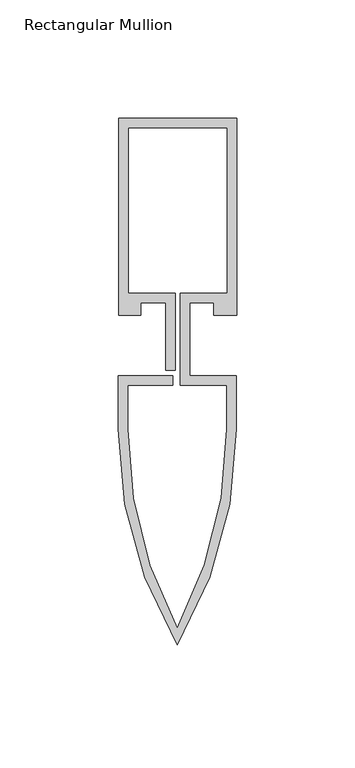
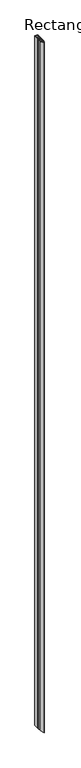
"""IFC4 building model written with IfcOpenShell, lengths in millimetres: member geometry, Rectangular Mullion : Reynaers_CW-50_Transom-Transom_83.5mm_Facecap-05."""

from ifc_helpers import new_model, si_unit, point, frame, frame_2d, origin, place, context, project, spatial, polyline, circle_curve, trimmed, segment, composite_curve, outline, extrude, source, transform, mapped, element, save


def rectangular_mullion_9ff2e521(model_context):
    return source(origin(), model_context, "Body", "SweptSolid", [
        extrude(outline(composite_curve([segment(polyline([(25.1995941, 12.7331291), (15.499, 12.7331291), (15.499, 18.1331291), (5.2995941, 18.1331291), (5.2995941, -12.7331291), (24.994845, -12.7331291), (24.994845, -35.5313894)]), True, "CONTINUOUS"), segment(trimmed(circle_curve(frame_2d((-153.8920333, -35.5313894)), 178.8868784), [point((24.994845, -35.5313894))], [point((0.0, -126.7331291))], False, "CARTESIAN"), True, "CONTINUOUS"), segment(trimmed(circle_curve(frame_2d((153.8920333, -35.5313894)), 178.8868784), [point((0.0, -126.7331291))], [point((-24.994845, -35.5313894))], False, "CARTESIAN"), True, "CONTINUOUS"), segment(polyline([(-24.994845, -35.5313894), (-24.994845, -12.7331291), (-1.9004059, -12.7331291), (-1.9004059, -16.7331291), (-20.994845, -16.7331291), (-20.994845, -35.5313894)]), True, "CONTINUOUS"), segment(trimmed(circle_curve(frame_2d((158.3679339, -35.5313894)), 179.3627789), [point((-20.994845, -35.5313894))], [point((0.0, -119.7371135))], True, "CARTESIAN"), True, "CONTINUOUS"), segment(trimmed(circle_curve(frame_2d((-158.3679339, -35.5313894)), 179.3627789), [point((0.0, -119.7371135))], [point((20.994845, -35.5313894))], True, "CARTESIAN"), True, "CONTINUOUS"), segment(polyline([(20.994845, -35.5313894), (20.994845, -16.7331291), (1.2995941, -16.7331291), (1.2995941, 22.1331291), (21.1995941, 22.1331291), (21.1995941, 92.2331291), (-20.8004059, 92.2331291), (-20.8004059, 22.1331291), (-0.9004059, 22.1331291), (-0.9004059, -10.5), (-4.9004059, -10.5), (-4.9004059, 18.1331291), (-15.499, 18.1331291), (-15.499, 12.7331291), (-24.8004059, 12.7331291), (-24.8004059, 96.2331291), (25.1995941, 96.2331291), (25.1995941, 12.7331291)]), True, "CONTINUOUS")], self_intersect=False)), frame((0.0, 0.0, -12000.0), z_axis=(0.0, 0.0, 1.0), x_axis=(1.0, 0.0, 0.0)), (0.0, 0.0, 1.0), 12000.0),
    ])


if __name__ == "__main__":
    model = new_model("IFC4")
    model_context = context("Model", 3, world=origin())
    ifc_project = project(units=[si_unit("LENGTHUNIT", "METRE", prefix="MILLI")], contexts=[model_context])
    site = spatial("IfcSite", under=ifc_project)
    building = spatial("IfcBuilding", under=site)
    placement = place(None, origin())
    rectangular_mullion_shape = rectangular_mullion_9ff2e521(model_context)
    element("IfcMember", 1, ObjectType="Rectangular Mullion : Reynaers_CW-50_Transom-Transom_83.5mm_Facecap-05", at=placement, inside=building, context=model_context, shape_type="MappedRepresentation", body=[
        mapped(rectangular_mullion_shape, transform((0.0, 0.0, 0.0), x_axis=(1.0, 0.0, 0.0), y_axis=(0.0, 1.0, 0.0), z_axis=(0.0, 0.0, 1.0))),
    ])
    save(model, "model.ifc")
